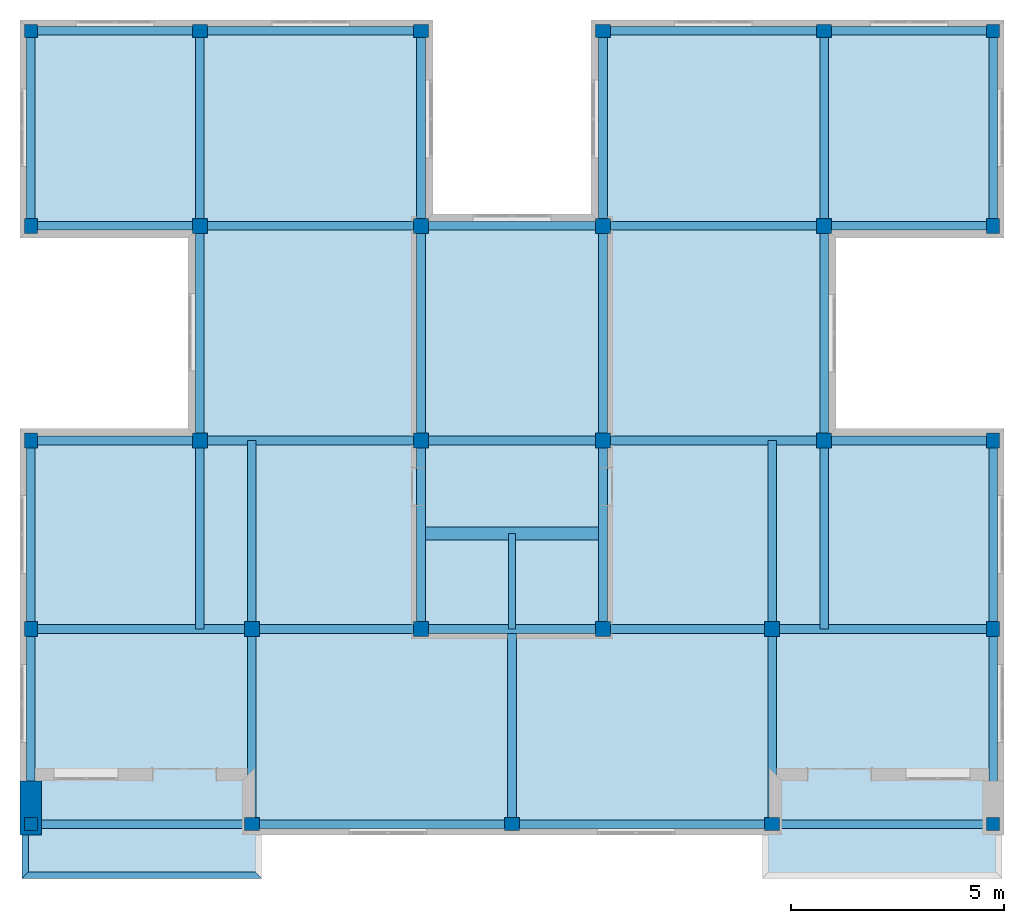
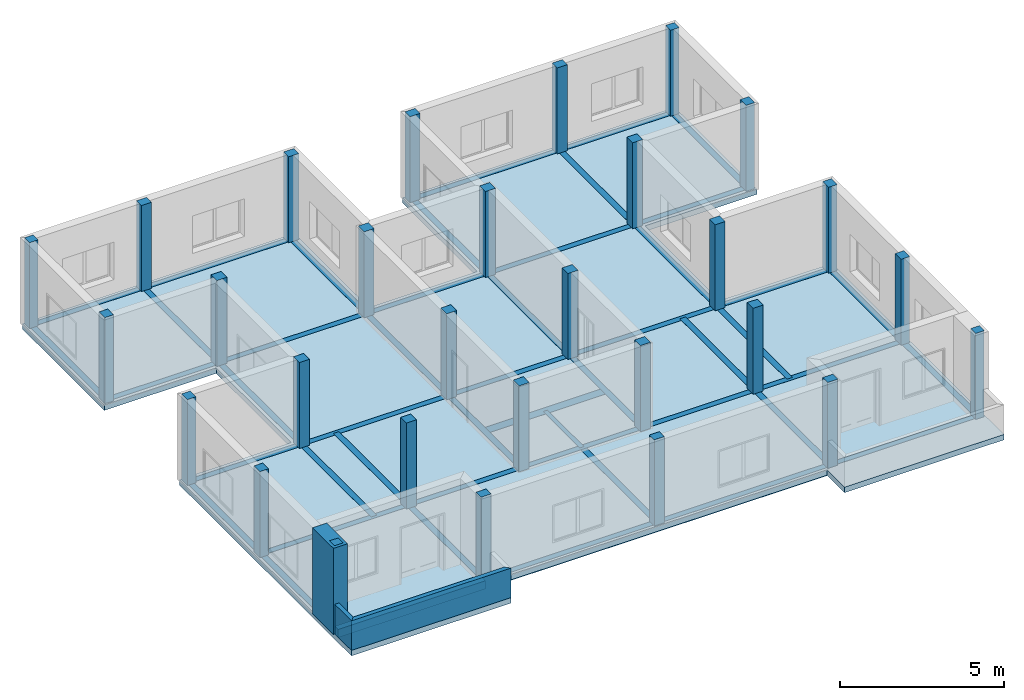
# One storey, part 1 of 6: 48 beams, 29 columns, 3 walls, 1 slab.
"""IFC2X3 building model written with IfcOpenShell, lengths in millimetres."""

from ifc_helpers import new_model, entity, si_unit, converted_unit, direction, frame, frame_2d, origin_with_axes, origin_2d_with_axis, place, context, subcontext, project, spatial, polyline, rectangle, outline, extrude, material, layer, layer_set, layer_usage, type_object, element, save


model = new_model("IFC2X3")

# Units and contexts
model_context = context("Model", 3, precision=1e-05, world=origin_with_axes(), true_north=direction((0.0, 1.0)))
body_context = subcontext(model_context, "Body", "Model", "MODEL_VIEW")
ifc_project = project(units=[si_unit("LENGTHUNIT", "METRE", prefix="MILLI"), si_unit("AREAUNIT", "SQUARE_METRE"), si_unit("VOLUMEUNIT", "CUBIC_METRE"), converted_unit("PLANEANGLEUNIT", "DEGREE", entity("IfcPlaneAngleMeasure", 0.017453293), si_unit("PLANEANGLEUNIT", "RADIAN"), dimensions=[0, 0, 0, 0, 0, 0, 0]), si_unit("SOLIDANGLEUNIT", "STERADIAN"), si_unit("MASSUNIT", "GRAM"), si_unit("TIMEUNIT", "SECOND"), si_unit("THERMODYNAMICTEMPERATUREUNIT", "DEGREE_CELSIUS"), si_unit("LUMINOUSINTENSITYUNIT", "LUMEN")], contexts=[model_context])

# Site, building, storey
site_placement = place(None, origin_with_axes())
site = spatial("IfcSite", under=ifc_project, at=site_placement, Name="Sitio", CompositionType="ELEMENT")
building_placement = place(site_placement, origin_with_axes())
building = spatial("IfcBuilding", under=site, at=building_placement, Name="Ejemplo_StruBIM", CompositionType="ELEMENT")
storey_placement = place(building_placement, frame((0.0, 0.0, 6400.8), z_axis=(0.0, 0.0, 1.0), x_axis=(1.0, 0.0, 0.0)))
storey = spatial("IfcBuildingStorey", under=building, at=storey_placement, Name="Second floor", CompositionType="ELEMENT", Elevation=6400.8)

# Columns
ifc_material_1 = material(Name="Hormigón armado")
column_type_1 = type_object("IfcColumnType", Name="12\"X12\"", PredefinedType="NOTDEFINED")
for number, where, z_axis, x_axis, name in (
    (1, (22555.2, 18592.8, 0.0), (0.0, 0.0, 1.0), (1.0, 0.0, 0.0), "P29"),
    (2, (22555.2, 0.0, 0.0), (0.0, 0.0, 1.0), (1.0, 0.0, 0.0), "P5"),
    (3, (0.0, 18592.8, 0.0), (0.0, 0.0, 1.0), (1.0, 0.0, 0.0), "P24"),
    (4, (0.0, 0.0, 0.0), (0.0, 0.0, 1.0), (1.0, 0.0, 0.0), "P1"),
):
    element("IfcColumn", number, at=place(storey_placement, frame(where, z_axis=z_axis, x_axis=x_axis)), inside=storey, type_object=column_type_1, material=ifc_material_1, Name=name, ObjectType="12\"X12\"", context=body_context, shape_type="SweptSolid", body=[
        extrude(rectangle(XDim=304.8, YDim=304.8, at=origin_2d_with_axis()), origin_with_axes(), (0.0, 0.0, 1.0), 3200.4),
    ])
column_type_2 = type_object("IfcColumnType", Name="12\"X14\"", PredefinedType="NOTDEFINED")
for number, where, z_axis, x_axis, name in (
    (5, (22555.2, 14020.8, 0.0), (0.0, 0.0, 1.0), (1.0, 0.0, 0.0), "P23"),
    (6, (22555.2, 8991.6, 0.0), (0.0, 0.0, 1.0), (1.0, 0.0, 0.0), "P17"),
    (7, (22555.2, 4572.0, 0.0), (0.0, 0.0, 1.0), (1.0, 0.0, 0.0), "Pilar-004"),
    (8, (0.0, 14020.8, 0.0), (0.0, 0.0, 1.0), (1.0, 0.0, 0.0), "P18"),
    (9, (0.0, 8991.6, 0.0), (0.0, 0.0, 1.0), (1.0, 0.0, 0.0), "P12"),
    (10, (0.0, 4572.0, 0.0), (0.0, 0.0, 1.0), (1.0, 0.0, 0.0), "Pilar-004"),
):
    element("IfcColumn", number, at=place(storey_placement, frame(where, z_axis=z_axis, x_axis=x_axis)), inside=storey, type_object=column_type_2, material=ifc_material_1, Name=name, ObjectType="12\"X14\"", context=body_context, shape_type="SweptSolid", body=[
        extrude(rectangle(XDim=304.8, YDim=355.6, at=origin_2d_with_axis()), origin_with_axes(), (0.0, 0.0, 1.0), 3200.4),
    ])
column_type_3 = type_object("IfcColumnType", Name="14\"X12\"", PredefinedType="NOTDEFINED")
for number, where, z_axis, x_axis, name in (
    (11, (18592.8, 18592.8, 0.0), (0.0, 0.0, 1.0), (1.0, 0.0, 0.0), "P28"),
    (12, (13411.2, 18592.8, 0.0), (0.0, 0.0, 1.0), (1.0, 0.0, 0.0), "P27"),
    (13, (17373.6, 0.0, 0.0), (0.0, 0.0, 1.0), (1.0, 0.0, 0.0), "P4"),
    (14, (3962.4, 18592.8, 0.0), (0.0, 0.0, 1.0), (1.0, 0.0, 0.0), "P25"),
    (15, (9144.0, 18592.8, 0.0), (0.0, 0.0, 1.0), (1.0, 0.0, 0.0), "P26"),
    (16, (11277.6, 0.0, 0.0), (0.0, 0.0, 1.0), (1.0, 0.0, 0.0), "P3"),
    (17, (5181.6, 0.0, 0.0), (0.0, 0.0, 1.0), (1.0, 0.0, 0.0), "P2"),
):
    element("IfcColumn", number, at=place(storey_placement, frame(where, z_axis=z_axis, x_axis=x_axis)), inside=storey, type_object=column_type_3, material=ifc_material_1, Name=name, ObjectType="14\"X12\"", context=body_context, shape_type="SweptSolid", body=[
        extrude(rectangle(XDim=355.6, YDim=304.8, at=origin_2d_with_axis()), origin_with_axes(), (0.0, 0.0, 1.0), 3200.4),
    ])
column_type_4 = type_object("IfcColumnType", Name="14\"X14\"", PredefinedType="NOTDEFINED")
for number, where, z_axis, x_axis, name in (
    (18, (13411.2, 4572.0, 0.0), (0.0, 0.0, 1.0), (1.0, 0.0, 0.0), "Pilar-004"),
    (19, (13411.2, 8991.6, 0.0), (0.0, 0.0, 1.0), (1.0, 0.0, 0.0), "P15"),
    (20, (13411.2, 14020.8, 0.0), (0.0, 0.0, 1.0), (1.0, 0.0, 0.0), "P21"),
    (21, (18592.8, 14020.8, 0.0), (0.0, 0.0, 1.0), (1.0, 0.0, 0.0), "P22"),
    (22, (18592.8, 8991.6, 0.0), (0.0, 0.0, 1.0), (1.0, 0.0, 0.0), "P16"),
    (23, (17373.6, 4572.0, 0.0), (0.0, 0.0, 1.0), (1.0, 0.0, 0.0), "Pilar-004"),
    (24, (9144.0, 4572.0, 0.0), (0.0, 0.0, 1.0), (1.0, 0.0, 0.0), "Pilar-004"),
    (25, (9144.0, 8991.6, 0.0), (0.0, 0.0, 1.0), (1.0, 0.0, 0.0), "P14"),
    (26, (9144.0, 14020.8, 0.0), (0.0, 0.0, 1.0), (1.0, 0.0, 0.0), "P20"),
    (27, (3962.4, 14020.8, 0.0), (0.0, 0.0, 1.0), (1.0, 0.0, 0.0), "P19"),
    (28, (3962.4, 8991.6, 0.0), (0.0, 0.0, 1.0), (1.0, 0.0, 0.0), "P13"),
    (29, (5181.6, 4572.0, 0.0), (0.0, 0.0, 1.0), (1.0, 0.0, 0.0), "Pilar-004"),
):
    element("IfcColumn", number, at=place(storey_placement, frame(where, z_axis=z_axis, x_axis=x_axis)), inside=storey, type_object=column_type_4, material=ifc_material_1, Name=name, ObjectType="14\"X14\"", context=body_context, shape_type="SweptSolid", body=[
        extrude(rectangle(XDim=355.6, YDim=355.6, at=origin_2d_with_axis()), origin_with_axes(), (0.0, 0.0, 1.0), 3200.4),
    ])

# Beams
beam_type_1 = type_object("IfcBeamType", Name="12\"X8\"", PredefinedType="NOTDEFINED")
beam_1_placement = place(storey_placement, frame((3962.4, 18592.8, 0.0), z_axis=(0.0, 0.0, 1.0), x_axis=(-1.0, 0.0, 0.0)))
element("IfcBeam", 30, at=beam_1_placement, inside=storey, type_object=beam_type_1, material=ifc_material_1, Name="Viga-028", ObjectType="12\"X8\"", context=body_context, shape_type="SweptSolid", body=[
    extrude(rectangle(XDim=304.8, YDim=203.2, at=frame_2d((-152.4, 0.0), x_axis=(1.0, 0.0))), frame((0.0, 0.0, 0.0), z_axis=(0.0, 1.0, 0.0), x_axis=(0.0, 0.0, 1.0)), (0.0, 0.0, 1.0), 4572.0),
])
beam_2_placement = place(storey_placement, frame((3962.4, 18592.8, 0.0), z_axis=(0.0, 0.0, 1.0), x_axis=(0.0, -1.0, 0.0)))
element("IfcBeam", 31, at=beam_2_placement, inside=storey, type_object=beam_type_1, material=ifc_material_1, Name="Viga-028", ObjectType="12\"X8\"", context=body_context, shape_type="SweptSolid", body=[
    extrude(rectangle(XDim=304.8, YDim=203.2, at=frame_2d((-152.4, 0.0), x_axis=(1.0, 0.0))), frame((0.0, 0.0, 0.0), z_axis=(0.0, 1.0, 0.0), x_axis=(0.0, 0.0, 1.0)), (0.0, 0.0, 1.0), 5181.6),
])
beam_3_placement = place(storey_placement, frame((3962.4, 18592.8, 0.0), z_axis=(0.0, 0.0, 1.0), x_axis=(0.0, 1.0, 0.0)))
element("IfcBeam", 32, at=beam_3_placement, inside=storey, type_object=beam_type_1, material=ifc_material_1, Name="Viga-029", ObjectType="12\"X8\"", context=body_context, shape_type="SweptSolid", body=[
    extrude(rectangle(XDim=304.8, YDim=203.2, at=frame_2d((-152.4, 0.0), x_axis=(1.0, 0.0))), frame((0.0, 0.0, 0.0), z_axis=(0.0, 1.0, 0.0), x_axis=(0.0, 0.0, 1.0)), (0.0, 0.0, 1.0), 3962.4),
])
beam_4_placement = place(storey_placement, frame((0.0, 18592.8, 0.0), z_axis=(0.0, 0.0, 1.0), x_axis=(-1.0, 0.0, 0.0)))
element("IfcBeam", 33, at=beam_4_placement, inside=storey, type_object=beam_type_1, material=ifc_material_1, Name="Viga-030", ObjectType="12\"X8\"", context=body_context, shape_type="SweptSolid", body=[
    extrude(rectangle(XDim=304.8, YDim=203.2, at=frame_2d((-152.4, 0.0), x_axis=(1.0, 0.0))), frame((0.0, 0.0, 0.0), z_axis=(0.0, 1.0, 0.0), x_axis=(0.0, 0.0, 1.0)), (0.0, 0.0, 1.0), 4572.0),
])
beam_5_placement = place(storey_placement, frame((0.0, 14020.8, 0.0), z_axis=(0.0, 0.0, 1.0), x_axis=(0.0, -1.0, 0.0)))
element("IfcBeam", 34, at=beam_5_placement, inside=storey, type_object=beam_type_1, material=ifc_material_1, Name="Viga-031", ObjectType="12\"X8\"", context=body_context, shape_type="SweptSolid", body=[
    extrude(rectangle(XDim=304.8, YDim=203.2, at=frame_2d((-152.4, 0.0), x_axis=(1.0, 0.0))), frame((0.0, 0.0, 0.0), z_axis=(0.0, 1.0, 0.0), x_axis=(0.0, 0.0, 1.0)), (0.0, 0.0, 1.0), 3962.4),
])
beam_6_placement = place(storey_placement, frame((3962.4, 14020.8, 0.0), z_axis=(0.0, 0.0, 1.0), x_axis=(0.0, -1.0, 0.0)))
element("IfcBeam", 35, at=beam_6_placement, inside=storey, type_object=beam_type_1, material=ifc_material_1, Name="Viga-032", ObjectType="12\"X8\"", context=body_context, shape_type="SweptSolid", body=[
    extrude(rectangle(XDim=304.8, YDim=203.2, at=frame_2d((-152.4, 0.0), x_axis=(1.0, 0.0))), frame((0.0, 0.0, 0.0), z_axis=(0.0, 1.0, 0.0), x_axis=(0.0, 0.0, 1.0)), (0.0, 0.0, 1.0), 5181.6),
])
beam_7_placement = place(storey_placement, frame((9144.0, 14020.8, 0.0), z_axis=(0.0, 0.0, 1.0), x_axis=(1.0, 0.0, 0.0)))
element("IfcBeam", 36, at=beam_7_placement, inside=storey, type_object=beam_type_1, material=ifc_material_1, Name="Viga-033", ObjectType="12\"X8\"", context=body_context, shape_type="SweptSolid", body=[
    extrude(rectangle(XDim=304.8, YDim=203.2, at=frame_2d((-152.4, 0.0), x_axis=(1.0, 0.0))), frame((0.0, 0.0, 0.0), z_axis=(0.0, 1.0, 0.0), x_axis=(0.0, 0.0, 1.0)), (0.0, 0.0, 1.0), 4572.0),
])
for number, where, z_axis, x_axis, name in (
    (37, (9144.0, 8991.6, 0.0), (0.0, 0.0, 1.0), (1.0, 0.0, 0.0), "Viga-034"),
    (38, (3962.4, 14020.8, 0.0), (0.0, 0.0, 1.0), (-1.0, 0.0, 0.0), "Viga-035"),
):
    element("IfcBeam", number, at=place(storey_placement, frame(where, z_axis=z_axis, x_axis=x_axis)), inside=storey, type_object=beam_type_1, material=ifc_material_1, Name=name, ObjectType="12\"X8\"", context=body_context, shape_type="SweptSolid", body=[
        extrude(rectangle(XDim=304.8, YDim=203.2, at=frame_2d((-152.4, 0.0), x_axis=(1.0, 0.0))), frame((0.0, 0.0, 0.0), z_axis=(0.0, 1.0, 0.0), x_axis=(0.0, 0.0, 1.0)), (0.0, 0.0, 1.0), 5029.2),
    ])
beam_8_placement = place(storey_placement, frame((13411.2, 14020.8, 0.0), z_axis=(0.0, 0.0, 1.0), x_axis=(0.0, 1.0, 0.0)))
element("IfcBeam", 39, at=beam_8_placement, inside=storey, type_object=beam_type_1, material=ifc_material_1, Name="Viga-050", ObjectType="12\"X8\"", context=body_context, shape_type="SweptSolid", body=[
    extrude(rectangle(XDim=304.8, YDim=203.2, at=frame_2d((-152.4, 0.0), x_axis=(1.0, 0.0))), frame((0.0, 0.0, 0.0), z_axis=(0.0, 1.0, 0.0), x_axis=(0.0, 0.0, 1.0)), (0.0, 0.0, 1.0), 4267.2),
])
beam_9_placement = place(storey_placement, frame((0.0, 8991.6, 0.0), z_axis=(0.0, 0.0, 1.0), x_axis=(0.0, -1.0, 0.0)))
element("IfcBeam", 40, at=beam_9_placement, inside=storey, type_object=beam_type_1, material=ifc_material_1, Name="Viga-037", ObjectType="12\"X8\"", context=body_context, shape_type="SweptSolid", body=[
    extrude(rectangle(XDim=304.8, YDim=203.2, at=frame_2d((-152.4, 0.0), x_axis=(1.0, 0.0))), frame((0.0, 0.0, 0.0), z_axis=(0.0, 1.0, 0.0), x_axis=(0.0, 0.0, 1.0)), (0.0, 0.0, 1.0), 3962.4),
])
beam_10_placement = place(storey_placement, frame((3962.4, 8991.6, 0.0), z_axis=(0.0, 0.0, 1.0), x_axis=(0.0, -1.0, 0.0)))
element("IfcBeam", 41, at=beam_10_placement, inside=storey, type_object=beam_type_1, material=ifc_material_1, Name="Viga-038", ObjectType="12\"X8\"", context=body_context, shape_type="SweptSolid", body=[
    extrude(rectangle(XDim=304.8, YDim=203.2, at=frame_2d((-152.4, 0.0), x_axis=(1.0, 0.0))), frame((0.0, 0.0, 0.0), z_axis=(0.0, 1.0, 0.0), x_axis=(0.0, 0.0, 1.0)), (0.0, 0.0, 1.0), 5181.6),
])
beam_11_placement = place(storey_placement, frame((9144.0, 8991.6, 0.0), z_axis=(0.0, 0.0, 1.0), x_axis=(-1.0, 0.0, 0.0)))
element("IfcBeam", 42, at=beam_11_placement, inside=storey, type_object=beam_type_1, material=ifc_material_1, Name="Viga-039", ObjectType="12\"X8\"", context=body_context, shape_type="SweptSolid", body=[
    extrude(rectangle(XDim=304.8, YDim=203.2, at=frame_2d((-152.4, 0.0), x_axis=(1.0, 0.0))), frame((0.0, 0.0, 0.0), z_axis=(0.0, 1.0, 0.0), x_axis=(0.0, 0.0, 1.0)), (0.0, 0.0, 1.0), 4419.6),
])
beam_12_placement = place(storey_placement, frame((9144.0, 4572.0, 0.0), z_axis=(0.0, 0.0, 1.0), x_axis=(0.0, 1.0, 0.0)))
element("IfcBeam", 43, at=beam_12_placement, inside=storey, type_object=beam_type_1, material=ifc_material_1, Name="Viga-040", ObjectType="12\"X8\"", context=body_context, shape_type="SweptSolid", body=[
    extrude(rectangle(XDim=304.8, YDim=203.2, at=frame_2d((-152.4, 0.0), x_axis=(1.0, 0.0))), frame((0.0, 0.0, 0.0), z_axis=(0.0, 1.0, 0.0), x_axis=(0.0, 0.0, 1.0)), (0.0, 0.0, 1.0), 3962.4),
])
beam_13_placement = place(storey_placement, frame((5181.6, 4572.0, 0.0), z_axis=(0.0, 0.0, 1.0), x_axis=(0.0, 1.0, 0.0)))
element("IfcBeam", 44, at=beam_13_placement, inside=storey, type_object=beam_type_1, material=ifc_material_1, Name="Viga-041", ObjectType="12\"X8\"", context=body_context, shape_type="SweptSolid", body=[
    extrude(rectangle(XDim=304.8, YDim=203.2, at=frame_2d((-152.4, 0.0), x_axis=(1.0, 0.0))), frame((0.0, 0.0, 0.0), z_axis=(0.0, 1.0, 0.0), x_axis=(0.0, 0.0, 1.0)), (0.0, 0.0, 1.0), 5181.6),
])
beam_14_placement = place(storey_placement, frame((0.0, 4572.0, 0.0), z_axis=(0.0, 0.0, 1.0), x_axis=(1.0, 0.0, 0.0)))
element("IfcBeam", 45, at=beam_14_placement, inside=storey, type_object=beam_type_1, material=ifc_material_1, Name="Viga-042", ObjectType="12\"X8\"", context=body_context, shape_type="SweptSolid", body=[
    extrude(rectangle(XDim=304.8, YDim=203.2, at=frame_2d((-152.4, 0.0), x_axis=(1.0, 0.0))), frame((0.0, 0.0, 0.0), z_axis=(0.0, 1.0, 0.0), x_axis=(0.0, 0.0, 1.0)), (0.0, 0.0, 1.0), 4419.6),
])
beam_15_placement = place(storey_placement, frame((0.0, 4572.0, 0.0), z_axis=(0.0, 0.0, 1.0), x_axis=(-1.0, 0.0, 0.0)))
element("IfcBeam", 46, at=beam_15_placement, inside=storey, type_object=beam_type_1, material=ifc_material_1, Name="Viga-043", ObjectType="12\"X8\"", context=body_context, shape_type="SweptSolid", body=[
    extrude(rectangle(XDim=304.8, YDim=203.2, at=frame_2d((-152.4, 0.0), x_axis=(1.0, 0.0))), frame((0.0, 0.0, 0.0), z_axis=(0.0, 1.0, 0.0), x_axis=(0.0, 0.0, 1.0)), (0.0, 0.0, 1.0), 4572.0),
])
beam_16_placement = place(storey_placement, frame((0.0, 0.0, 0.0), z_axis=(0.0, 0.0, 1.0), x_axis=(0.0, -1.0, 0.0)))
element("IfcBeam", 47, at=beam_16_placement, inside=storey, type_object=beam_type_1, material=ifc_material_1, Name="Viga-044", ObjectType="12\"X8\"", context=body_context, shape_type="SweptSolid", body=[
    extrude(rectangle(XDim=304.8, YDim=203.2, at=frame_2d((-152.4, 0.0), x_axis=(1.0, 0.0))), frame((0.0, 0.0, 0.0), z_axis=(0.0, 1.0, 0.0), x_axis=(0.0, 0.0, 1.0)), (0.0, 0.0, 1.0), 5181.6),
])
beam_17_placement = place(storey_placement, frame((5181.6, 0.0, 0.0), z_axis=(0.0, 0.0, 1.0), x_axis=(0.0, -1.0, 0.0)))
element("IfcBeam", 48, at=beam_17_placement, inside=storey, type_object=beam_type_1, material=ifc_material_1, Name="Viga-045", ObjectType="12\"X8\"", context=body_context, shape_type="SweptSolid", body=[
    extrude(rectangle(XDim=304.8, YDim=203.2, at=frame_2d((-152.4, 0.0), x_axis=(1.0, 0.0))), frame((0.0, 0.0, 0.0), z_axis=(0.0, 1.0, 0.0), x_axis=(0.0, 0.0, 1.0)), (0.0, 0.0, 1.0), 6096.0),
])
for number, where, z_axis, x_axis, name in (
    (49, (5181.6, 0.0, 0.0), (0.0, 0.0, 1.0), (1.0, 0.0, 0.0), "Viga-046"),
    (50, (18592.8, 18592.8, 0.0), (0.0, 0.0, 1.0), (-1.0, 0.0, 0.0), "Viga-028"),
):
    element("IfcBeam", number, at=place(storey_placement, frame(where, z_axis=z_axis, x_axis=x_axis)), inside=storey, type_object=beam_type_1, material=ifc_material_1, Name=name, ObjectType="12\"X8\"", context=body_context, shape_type="SweptSolid", body=[
        extrude(rectangle(XDim=304.8, YDim=203.2, at=frame_2d((-152.4, 0.0), x_axis=(1.0, 0.0))), frame((0.0, 0.0, 0.0), z_axis=(0.0, 1.0, 0.0), x_axis=(0.0, 0.0, 1.0)), (0.0, 0.0, 1.0), 4572.0),
    ])
beam_18_placement = place(storey_placement, frame((18592.8, 18592.8, 0.0), z_axis=(0.0, 0.0, 1.0), x_axis=(0.0, 1.0, 0.0)))
element("IfcBeam", 51, at=beam_18_placement, inside=storey, type_object=beam_type_1, material=ifc_material_1, Name="Viga-028", ObjectType="12\"X8\"", context=body_context, shape_type="SweptSolid", body=[
    extrude(rectangle(XDim=304.8, YDim=203.2, at=frame_2d((-152.4, 0.0), x_axis=(1.0, 0.0))), frame((0.0, 0.0, 0.0), z_axis=(0.0, 1.0, 0.0), x_axis=(0.0, 0.0, 1.0)), (0.0, 0.0, 1.0), 5181.6),
])
beam_19_placement = place(storey_placement, frame((18592.8, 18592.8, 0.0), z_axis=(0.0, 0.0, 1.0), x_axis=(0.0, -1.0, 0.0)))
element("IfcBeam", 52, at=beam_19_placement, inside=storey, type_object=beam_type_1, material=ifc_material_1, Name="Viga-029", ObjectType="12\"X8\"", context=body_context, shape_type="SweptSolid", body=[
    extrude(rectangle(XDim=304.8, YDim=203.2, at=frame_2d((-152.4, 0.0), x_axis=(1.0, 0.0))), frame((0.0, 0.0, 0.0), z_axis=(0.0, 1.0, 0.0), x_axis=(0.0, 0.0, 1.0)), (0.0, 0.0, 1.0), 3962.4),
])
beam_20_placement = place(storey_placement, frame((22555.2, 18592.8, 0.0), z_axis=(0.0, 0.0, 1.0), x_axis=(-1.0, 0.0, 0.0)))
element("IfcBeam", 53, at=beam_20_placement, inside=storey, type_object=beam_type_1, material=ifc_material_1, Name="Viga-030", ObjectType="12\"X8\"", context=body_context, shape_type="SweptSolid", body=[
    extrude(rectangle(XDim=304.8, YDim=203.2, at=frame_2d((-152.4, 0.0), x_axis=(1.0, 0.0))), frame((0.0, 0.0, 0.0), z_axis=(0.0, 1.0, 0.0), x_axis=(0.0, 0.0, 1.0)), (0.0, 0.0, 1.0), 4572.0),
])
beam_21_placement = place(storey_placement, frame((22555.2, 14020.8, 0.0), z_axis=(0.0, 0.0, 1.0), x_axis=(0.0, 1.0, 0.0)))
element("IfcBeam", 54, at=beam_21_placement, inside=storey, type_object=beam_type_1, material=ifc_material_1, Name="Viga-031", ObjectType="12\"X8\"", context=body_context, shape_type="SweptSolid", body=[
    extrude(rectangle(XDim=304.8, YDim=203.2, at=frame_2d((-152.4, 0.0), x_axis=(1.0, 0.0))), frame((0.0, 0.0, 0.0), z_axis=(0.0, 1.0, 0.0), x_axis=(0.0, 0.0, 1.0)), (0.0, 0.0, 1.0), 3962.4),
])
beam_22_placement = place(storey_placement, frame((18592.8, 14020.8, 0.0), z_axis=(0.0, 0.0, 1.0), x_axis=(0.0, 1.0, 0.0)))
element("IfcBeam", 55, at=beam_22_placement, inside=storey, type_object=beam_type_1, material=ifc_material_1, Name="Viga-032", ObjectType="12\"X8\"", context=body_context, shape_type="SweptSolid", body=[
    extrude(rectangle(XDim=304.8, YDim=203.2, at=frame_2d((-152.4, 0.0), x_axis=(1.0, 0.0))), frame((0.0, 0.0, 0.0), z_axis=(0.0, 1.0, 0.0), x_axis=(0.0, 0.0, 1.0)), (0.0, 0.0, 1.0), 5181.6),
])
beam_23_placement = place(storey_placement, frame((13411.2, 14020.8, 0.0), z_axis=(0.0, 0.0, 1.0), x_axis=(1.0, 0.0, 0.0)))
element("IfcBeam", 56, at=beam_23_placement, inside=storey, type_object=beam_type_1, material=ifc_material_1, Name="Viga-033", ObjectType="12\"X8\"", context=body_context, shape_type="SweptSolid", body=[
    extrude(rectangle(XDim=304.8, YDim=203.2, at=frame_2d((-152.4, 0.0), x_axis=(1.0, 0.0))), frame((0.0, 0.0, 0.0), z_axis=(0.0, 1.0, 0.0), x_axis=(0.0, 0.0, 1.0)), (0.0, 0.0, 1.0), 4572.0),
])
for number, where, z_axis, x_axis, name in (
    (57, (13411.2, 8991.6, 0.0), (0.0, 0.0, 1.0), (1.0, 0.0, 0.0), "Viga-034"),
    (58, (18592.8, 14020.8, 0.0), (0.0, 0.0, 1.0), (-1.0, 0.0, 0.0), "Viga-035"),
):
    element("IfcBeam", number, at=place(storey_placement, frame(where, z_axis=z_axis, x_axis=x_axis)), inside=storey, type_object=beam_type_1, material=ifc_material_1, Name=name, ObjectType="12\"X8\"", context=body_context, shape_type="SweptSolid", body=[
        extrude(rectangle(XDim=304.8, YDim=203.2, at=frame_2d((-152.4, 0.0), x_axis=(1.0, 0.0))), frame((0.0, 0.0, 0.0), z_axis=(0.0, 1.0, 0.0), x_axis=(0.0, 0.0, 1.0)), (0.0, 0.0, 1.0), 5029.2),
    ])
beam_24_placement = place(storey_placement, frame((9144.0, 8991.6, 0.0), z_axis=(0.0, 0.0, 1.0), x_axis=(0.0, -1.0, 0.0)))
element("IfcBeam", 59, at=beam_24_placement, inside=storey, type_object=beam_type_1, material=ifc_material_1, Name="Viga-049", ObjectType="12\"X8\"", context=body_context, shape_type="SweptSolid", body=[
    extrude(rectangle(XDim=304.8, YDim=203.2, at=frame_2d((-152.4, 0.0), x_axis=(1.0, 0.0))), frame((0.0, 0.0, 0.0), z_axis=(0.0, 1.0, 0.0), x_axis=(0.0, 0.0, 1.0)), (0.0, 0.0, 1.0), 4267.2),
])
beam_25_placement = place(storey_placement, frame((22555.2, 8991.6, 0.0), z_axis=(0.0, 0.0, 1.0), x_axis=(0.0, 1.0, 0.0)))
element("IfcBeam", 60, at=beam_25_placement, inside=storey, type_object=beam_type_1, material=ifc_material_1, Name="Viga-037", ObjectType="12\"X8\"", context=body_context, shape_type="SweptSolid", body=[
    extrude(rectangle(XDim=304.8, YDim=203.2, at=frame_2d((-152.4, 0.0), x_axis=(1.0, 0.0))), frame((0.0, 0.0, 0.0), z_axis=(0.0, 1.0, 0.0), x_axis=(0.0, 0.0, 1.0)), (0.0, 0.0, 1.0), 3962.4),
])
beam_26_placement = place(storey_placement, frame((18592.8, 8991.6, 0.0), z_axis=(0.0, 0.0, 1.0), x_axis=(0.0, 1.0, 0.0)))
element("IfcBeam", 61, at=beam_26_placement, inside=storey, type_object=beam_type_1, material=ifc_material_1, Name="Viga-038", ObjectType="12\"X8\"", context=body_context, shape_type="SweptSolid", body=[
    extrude(rectangle(XDim=304.8, YDim=203.2, at=frame_2d((-152.4, 0.0), x_axis=(1.0, 0.0))), frame((0.0, 0.0, 0.0), z_axis=(0.0, 1.0, 0.0), x_axis=(0.0, 0.0, 1.0)), (0.0, 0.0, 1.0), 5181.6),
])
beam_27_placement = place(storey_placement, frame((13411.2, 8991.6, 0.0), z_axis=(0.0, 0.0, 1.0), x_axis=(-1.0, 0.0, 0.0)))
element("IfcBeam", 62, at=beam_27_placement, inside=storey, type_object=beam_type_1, material=ifc_material_1, Name="Viga-039", ObjectType="12\"X8\"", context=body_context, shape_type="SweptSolid", body=[
    extrude(rectangle(XDim=304.8, YDim=203.2, at=frame_2d((-152.4, 0.0), x_axis=(1.0, 0.0))), frame((0.0, 0.0, 0.0), z_axis=(0.0, 1.0, 0.0), x_axis=(0.0, 0.0, 1.0)), (0.0, 0.0, 1.0), 4419.6),
])
beam_28_placement = place(storey_placement, frame((13411.2, 4572.0, 0.0), z_axis=(0.0, 0.0, 1.0), x_axis=(0.0, -1.0, 0.0)))
element("IfcBeam", 63, at=beam_28_placement, inside=storey, type_object=beam_type_1, material=ifc_material_1, Name="Viga-040", ObjectType="12\"X8\"", context=body_context, shape_type="SweptSolid", body=[
    extrude(rectangle(XDim=304.8, YDim=203.2, at=frame_2d((-152.4, 0.0), x_axis=(1.0, 0.0))), frame((0.0, 0.0, 0.0), z_axis=(0.0, 1.0, 0.0), x_axis=(0.0, 0.0, 1.0)), (0.0, 0.0, 1.0), 3962.4),
])
beam_29_placement = place(storey_placement, frame((17373.6, 4572.0, 0.0), z_axis=(0.0, 0.0, 1.0), x_axis=(0.0, -1.0, 0.0)))
element("IfcBeam", 64, at=beam_29_placement, inside=storey, type_object=beam_type_1, material=ifc_material_1, Name="Viga-041", ObjectType="12\"X8\"", context=body_context, shape_type="SweptSolid", body=[
    extrude(rectangle(XDim=304.8, YDim=203.2, at=frame_2d((-152.4, 0.0), x_axis=(1.0, 0.0))), frame((0.0, 0.0, 0.0), z_axis=(0.0, 1.0, 0.0), x_axis=(0.0, 0.0, 1.0)), (0.0, 0.0, 1.0), 5181.6),
])
beam_30_placement = place(storey_placement, frame((22555.2, 4572.0, 0.0), z_axis=(0.0, 0.0, 1.0), x_axis=(1.0, 0.0, 0.0)))
element("IfcBeam", 65, at=beam_30_placement, inside=storey, type_object=beam_type_1, material=ifc_material_1, Name="Viga-042", ObjectType="12\"X8\"", context=body_context, shape_type="SweptSolid", body=[
    extrude(rectangle(XDim=304.8, YDim=203.2, at=frame_2d((-152.4, 0.0), x_axis=(1.0, 0.0))), frame((0.0, 0.0, 0.0), z_axis=(0.0, 1.0, 0.0), x_axis=(0.0, 0.0, 1.0)), (0.0, 0.0, 1.0), 4419.6),
])
beam_31_placement = place(storey_placement, frame((22555.2, 4572.0, 0.0), z_axis=(0.0, 0.0, 1.0), x_axis=(-1.0, 0.0, 0.0)))
element("IfcBeam", 66, at=beam_31_placement, inside=storey, type_object=beam_type_1, material=ifc_material_1, Name="Viga-043", ObjectType="12\"X8\"", context=body_context, shape_type="SweptSolid", body=[
    extrude(rectangle(XDim=304.8, YDim=203.2, at=frame_2d((-152.4, 0.0), x_axis=(1.0, 0.0))), frame((0.0, 0.0, 0.0), z_axis=(0.0, 1.0, 0.0), x_axis=(0.0, 0.0, 1.0)), (0.0, 0.0, 1.0), 4572.0),
])
beam_32_placement = place(storey_placement, frame((22555.2, 0.0, 0.0), z_axis=(0.0, 0.0, 1.0), x_axis=(0.0, 1.0, 0.0)))
element("IfcBeam", 67, at=beam_32_placement, inside=storey, type_object=beam_type_1, material=ifc_material_1, Name="Viga-044", ObjectType="12\"X8\"", context=body_context, shape_type="SweptSolid", body=[
    extrude(rectangle(XDim=304.8, YDim=203.2, at=frame_2d((-152.4, 0.0), x_axis=(1.0, 0.0))), frame((0.0, 0.0, 0.0), z_axis=(0.0, 1.0, 0.0), x_axis=(0.0, 0.0, 1.0)), (0.0, 0.0, 1.0), 5181.6),
])
beam_33_placement = place(storey_placement, frame((17373.6, 0.0, 0.0), z_axis=(0.0, 0.0, 1.0), x_axis=(0.0, 1.0, 0.0)))
element("IfcBeam", 68, at=beam_33_placement, inside=storey, type_object=beam_type_1, material=ifc_material_1, Name="Viga-045", ObjectType="12\"X8\"", context=body_context, shape_type="SweptSolid", body=[
    extrude(rectangle(XDim=304.8, YDim=203.2, at=frame_2d((-152.4, 0.0), x_axis=(1.0, 0.0))), frame((0.0, 0.0, 0.0), z_axis=(0.0, 1.0, 0.0), x_axis=(0.0, 0.0, 1.0)), (0.0, 0.0, 1.0), 6096.0),
])
beam_34_placement = place(storey_placement, frame((17373.6, 0.0, 0.0), z_axis=(0.0, 0.0, 1.0), x_axis=(1.0, 0.0, 0.0)))
element("IfcBeam", 69, at=beam_34_placement, inside=storey, type_object=beam_type_1, material=ifc_material_1, Name="Viga-046", ObjectType="12\"X8\"", context=body_context, shape_type="SweptSolid", body=[
    extrude(rectangle(XDim=304.8, YDim=203.2, at=frame_2d((-152.4, 0.0), x_axis=(1.0, 0.0))), frame((0.0, 0.0, 0.0), z_axis=(0.0, 1.0, 0.0), x_axis=(0.0, 0.0, 1.0)), (0.0, 0.0, 1.0), 4572.0),
])
beam_35_placement = place(storey_placement, frame((13411.2, 4572.0, 0.0), z_axis=(0.0, 0.0, 1.0), x_axis=(0.0, 1.0, 0.0)))
element("IfcBeam", 70, at=beam_35_placement, inside=storey, type_object=beam_type_1, material=ifc_material_1, Name="Viga-047", ObjectType="12\"X8\"", context=body_context, shape_type="SweptSolid", body=[
    extrude(rectangle(XDim=304.8, YDim=203.2, at=frame_2d((-152.4, 0.0), x_axis=(1.0, 0.0))), frame((0.0, 0.0, 0.0), z_axis=(0.0, 1.0, 0.0), x_axis=(0.0, 0.0, 1.0)), (0.0, 0.0, 1.0), 4267.2),
])
beam_36_placement = place(storey_placement, frame((11277.6, 4572.0, 0.0), z_axis=(0.0, 0.0, 1.0), x_axis=(-1.0, 0.0, 0.0)))
element("IfcBeam", 71, at=beam_36_placement, inside=storey, type_object=beam_type_1, material=ifc_material_1, Name="Viga-048", ObjectType="12\"X8\"", context=body_context, shape_type="SweptSolid", body=[
    extrude(rectangle(XDim=304.8, YDim=203.2, at=frame_2d((-152.4, 0.0), x_axis=(1.0, 0.0))), frame((0.0, 0.0, 0.0), z_axis=(0.0, 1.0, 0.0), x_axis=(0.0, 0.0, 1.0)), (0.0, 0.0, 1.0), 4572.0),
])
for number, where, z_axis, x_axis, name in (
    (72, (3962.4, 8991.6, 0.0), (0.0, 0.0, 1.0), (-1.0, 0.0, 0.0), "Viga-041"),
    (73, (5181.6, 4572.0, 0.0), (0.0, 0.0, 1.0), (1.0, 0.0, 0.0), "Viga-042"),
    (74, (17373.6, 4572.0, 0.0), (0.0, 0.0, 1.0), (1.0, 0.0, 0.0), "Viga-043"),
    (75, (18592.8, 8991.6, 0.0), (0.0, 0.0, 1.0), (-1.0, 0.0, 0.0), "Viga-044"),
):
    element("IfcBeam", number, at=place(storey_placement, frame(where, z_axis=z_axis, x_axis=x_axis)), inside=storey, type_object=beam_type_1, material=ifc_material_1, Name=name, ObjectType="12\"X8\"", context=body_context, shape_type="SweptSolid", body=[
        extrude(rectangle(XDim=304.8, YDim=203.2, at=frame_2d((-152.4, 0.0), x_axis=(1.0, 0.0))), frame((0.0, 0.0, 0.0), z_axis=(0.0, 1.0, 0.0), x_axis=(0.0, 0.0, 1.0)), (0.0, 0.0, 1.0), 4419.6),
    ])
beam_type_2 = type_object("IfcBeamType", Name="8\"X12\"", PredefinedType="NOTDEFINED")
beam_37_placement = place(storey_placement, frame((9144.0, 6807.2, 0.0), z_axis=(0.0, 0.0, 1.0), x_axis=(0.0, -1.0, 0.0)))
element("IfcBeam", 76, at=beam_37_placement, inside=storey, type_object=beam_type_2, material=ifc_material_1, Name="Viga-036", ObjectType="8\"X12\"", context=body_context, shape_type="SweptSolid", body=[
    extrude(rectangle(XDim=203.2, YDim=304.8, at=frame_2d((-101.6, 0.0), x_axis=(1.0, 0.0))), frame((0.0, 0.0, 0.0), z_axis=(0.0, 1.0, 0.0), x_axis=(0.0, 0.0, 1.0)), (0.0, 0.0, 1.0), 4267.2),
])
beam_type_3 = type_object("IfcBeamType", Name="8\"X6\"", PredefinedType="NOTDEFINED")
beam_38_placement = place(storey_placement, frame((11277.6, 4572.0, 0.0), z_axis=(0.0, 0.0, 1.0), x_axis=(1.0, 0.0, 0.0)))
element("IfcBeam", 77, at=beam_38_placement, inside=storey, type_object=beam_type_3, material=ifc_material_1, Name="Viga-035", ObjectType="8\"X6\"", context=body_context, shape_type="SweptSolid", body=[
    extrude(rectangle(XDim=203.2, YDim=152.4, at=frame_2d((-101.6, 0.0), x_axis=(1.0, 0.0))), frame((0.0, 0.0, 0.0), z_axis=(0.0, 1.0, 0.0), x_axis=(0.0, 0.0, 1.0)), (0.0, 0.0, 1.0), 2235.2),
])

# Slab
ifc_layer_1 = layer(ifc_material_1, 203.2, ventilated="UNKNOWN")
ifc_layer_set_1 = layer_set([ifc_layer_1], Name="Hormigón armado 203.2")
ifc_layer_usage_1 = layer_usage(ifc_layer_set_1, "AXIS3", "NEGATIVE", 203.2)
slab_placement = place(storey_placement, frame((-203.2, -1270.0, -203.2), z_axis=(0.0, 0.0, 1.0), x_axis=(1.0, 0.0, 0.0)))
element("IfcSlab", 78, at=slab_placement, inside=storey, material=ifc_layer_usage_1, Name="Forj-003", PredefinedType="FLOOR", context=body_context, shape_type="SweptSolid", body=[
    extrude(outline(polyline([(0.0, 0.0), (5613.4, 0.0), (5613.4, 1066.8), (17348.2, 1066.8), (17348.2, 0.0), (22961.6, 0.0), (22961.6, 10490.2), (19024.6, 10490.2), (19024.6, 15062.2), (22961.6, 15062.2), (22961.6, 20066.0), (13385.8, 20066.0), (13385.8, 15519.4), (9575.8, 15519.4), (9575.8, 20066.0), (0.0, 20066.0), (0.0, 15062.2), (3937.0, 15062.2), (3937.0, 10490.2), (0.0, 10490.2), (0.0, 0.0)])), origin_with_axes(), (0.0, 0.0, 1.0), 203.2),
])

# Walls
ifc_material_2 = material(Name="Bloque mampostería")
ifc_layer_2 = layer(ifc_material_2, 150.0, ventilated="UNKNOWN")
ifc_layer_set_2 = layer_set([ifc_layer_2], Name="Bloque mampostería 150")
ifc_layer_usage_2 = layer_usage(ifc_layer_set_2, "AXIS2", "NEGATIVE", 0.0)
wall_type_1 = type_object("IfcWallType", Name="Bloque mampostería 6\"", PredefinedType="NOTDEFINED")
wall_1_placement = place(storey_placement, frame((5410.2, -1270.0, 0.0), z_axis=(0.0, 0.0, 1.0), x_axis=(-1.0, 0.0, 0.0)))
element("IfcWallStandardCase", 79, at=wall_1_placement, inside=storey, type_object=wall_type_1, material=ifc_layer_usage_2, Name="Muro-016", context=body_context, shape_type="SweptSolid", body=[
    extrude(outline(polyline([(150.0, -150.0), (5463.4, -150.0), (5613.4, 0.0), (0.0, 0.0), (150.0, -150.0)])), origin_with_axes(), (0.0, 0.0, 1.0), 1100.0),
])
ifc_layer_usage_3 = layer_usage(ifc_layer_set_2, "AXIS2", "NEGATIVE", 0.0)
wall_2_placement = place(storey_placement, frame((-203.2, -1270.0, 0.0), z_axis=(0.0, 0.0, 1.0), x_axis=(0.0, 1.0, 0.0)))
element("IfcWallStandardCase", 80, at=wall_2_placement, inside=storey, type_object=wall_type_1, material=ifc_layer_usage_3, Name="Muro-017", context=body_context, shape_type="SweptSolid", body=[
    extrude(outline(polyline([(150.0, -150.0), (1016.0, -150.0), (1016.0, 0.0), (0.0, 0.0), (150.0, -150.0)])), origin_with_axes(), (0.0, 0.0, 1.0), 1100.0),
])
ifc_layer_3 = layer(ifc_material_2, 500.0, ventilated="UNKNOWN")
ifc_layer_set_3 = layer_set([ifc_layer_3], Name="Bloque mampostería 500")
ifc_layer_usage_4 = layer_usage(ifc_layer_set_3, "AXIS2", "POSITIVE", 0.0)
wall_type_2 = type_object("IfcWallType", Name="Bloque mampostería 19 3/4\"", PredefinedType="NOTDEFINED")
wall_3_placement = place(storey_placement, frame((-254.0, 1016.0, 0.0), z_axis=(0.0, 0.0, 1.0), x_axis=(0.0, -1.0, 0.0)))
element("IfcWallStandardCase", 81, at=wall_3_placement, inside=storey, type_object=wall_type_2, material=ifc_layer_usage_4, Name="Muro-014", context=body_context, shape_type="SweptSolid", body=[
    extrude(outline(polyline([(0.0, 0.0), (1270.0, 0.0), (1270.0, 500.0), (0.0, 500.0), (0.0, 0.0)])), origin_with_axes(), (0.0, 0.0, 1.0), 3200.4),
])

save(model, "model.ifc")
